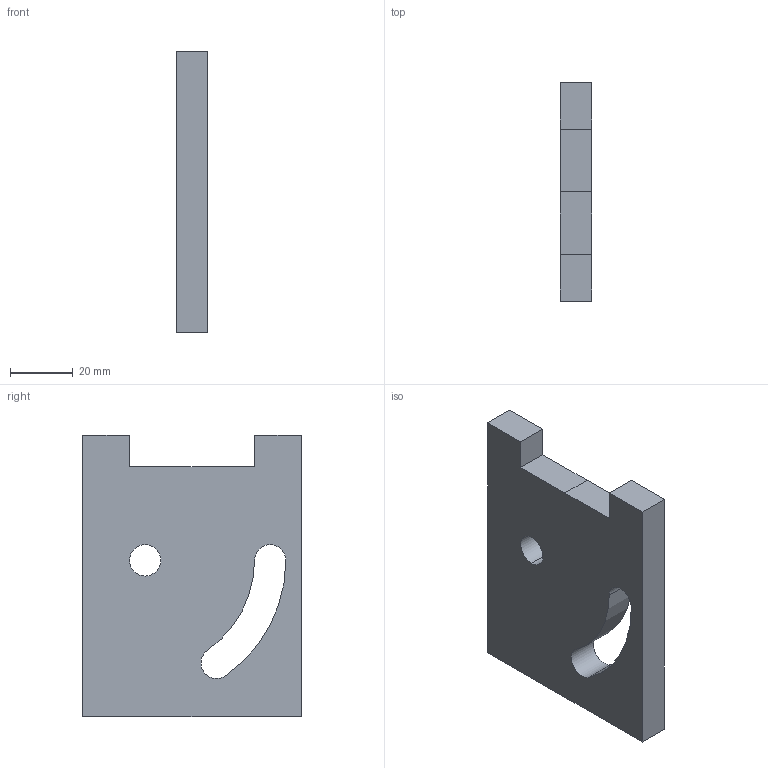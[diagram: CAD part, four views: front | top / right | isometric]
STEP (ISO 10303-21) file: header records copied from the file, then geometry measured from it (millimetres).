
FILE_DESCRIPTION(('CATIA V5 STEP Exchange'),'2;1');
FILE_NAME('C:\Users\gener\Documents\Lijadora Javitxu corte laser\pletina mesa vertical.stp','2022-08-29T05:41:53+00:00',('none'),('none'),'CATIA Version 5 Release 20 GA (IN-10)','CATIA V5 STEP AP203','none');
FILE_SCHEMA(('CONFIG_CONTROL_DESIGN'));
Length unit declared in the file: millimetre
Products named in the file (1): pletina mesa vertical
Bounding box: 10 x 70 x 90 mm (x, y, z)
Volume: 53580.1 mm3; surface area: 15514.2 mm2
Topology: 1 solids, 1 shells, 17 faces, 45 edges, 30 vertices
Faces by surface type: plane 11, cylinder 6
Entity records: 554 total; most frequent: CARTESIAN_POINT 90, ORIENTED_EDGE 90, DIRECTION 73, EDGE_CURVE 45, VECTOR 33, LINE 33, VERTEX_POINT 30, AXIS2_PLACEMENT_3D 27
